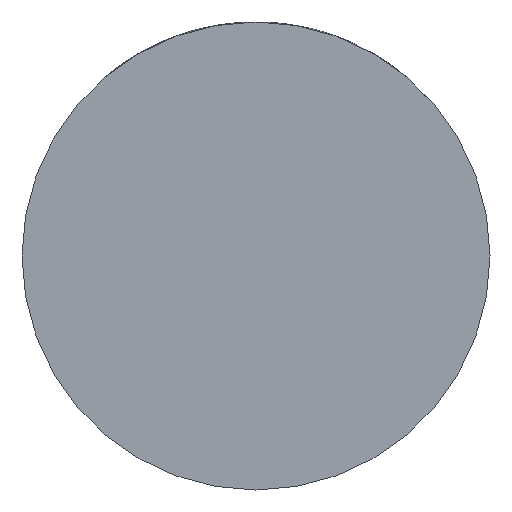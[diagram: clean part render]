
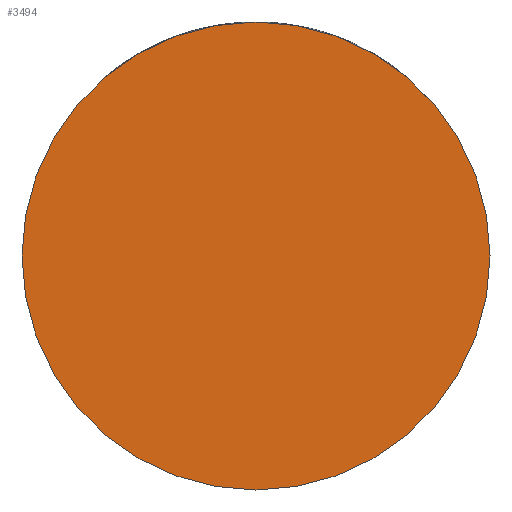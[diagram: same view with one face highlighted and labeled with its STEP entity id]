
A CAD part, front view. The second image highlights one B-rep face of the part: STEP entity #3494.
In plain terms, the highlighted planar face has unit normal (0, -1, 0).
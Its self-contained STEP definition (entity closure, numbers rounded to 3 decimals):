
#123 = PLANE ( 'NONE',  #4003 ) ;
#405 = CIRCLE ( 'NONE', #2175, 29.5 ) ;
#466 = FACE_OUTER_BOUND ( 'NONE', #2871, .T. ) ;
#479 = DIRECTION ( 'NONE',  ( 0., -1., 0. ) ) ;
#595 = VERTEX_POINT ( 'NONE', #2372 ) ;
#708 = CARTESIAN_POINT ( 'NONE',  ( -29.5, -33., 0. ) ) ;
#837 = DIRECTION ( 'NONE',  ( 0., -1., 0. ) ) ;
#1186 = DIRECTION ( 'NONE',  ( 1., 0., 0. ) ) ;
#1217 = DIRECTION ( 'NONE',  ( 1., 0., 0. ) ) ;
#1218 = DIRECTION ( 'NONE',  ( 1., 0., 0. ) ) ;
#1364 = EDGE_CURVE ( 'NONE', #3565, #595, #4015, .T. ) ;
#1534 = CARTESIAN_POINT ( 'NONE',  ( 0., -33., 0. ) ) ;
#2175 = AXIS2_PLACEMENT_3D ( 'NONE', #2227, #4358, #1217 ) ;
#2227 = CARTESIAN_POINT ( 'NONE',  ( 0., -33., 0. ) ) ;
#2372 = CARTESIAN_POINT ( 'NONE',  ( 29.5, -33., 0. ) ) ;
#2871 = EDGE_LOOP ( 'NONE', ( #3655, #3588 ) ) ;
#3494 = ADVANCED_FACE ( 'NONE', ( #466 ), #123, .T. ) ;
#3565 = VERTEX_POINT ( 'NONE', #708 ) ;
#3588 = ORIENTED_EDGE ( 'NONE', *, *, #4357, .T. ) ;
#3655 = ORIENTED_EDGE ( 'NONE', *, *, #1364, .T. ) ;
#3687 = CARTESIAN_POINT ( 'NONE',  ( 0., -33., 0. ) ) ;
#4003 = AXIS2_PLACEMENT_3D ( 'NONE', #1534, #837, #1186 ) ;
#4015 = CIRCLE ( 'NONE', #4522, 29.5 ) ;
#4357 = EDGE_CURVE ( 'NONE', #595, #3565, #405, .T. ) ;
#4358 = DIRECTION ( 'NONE',  ( 0., -1., 0. ) ) ;
#4522 = AXIS2_PLACEMENT_3D ( 'NONE', #3687, #479, #1218 ) ;
